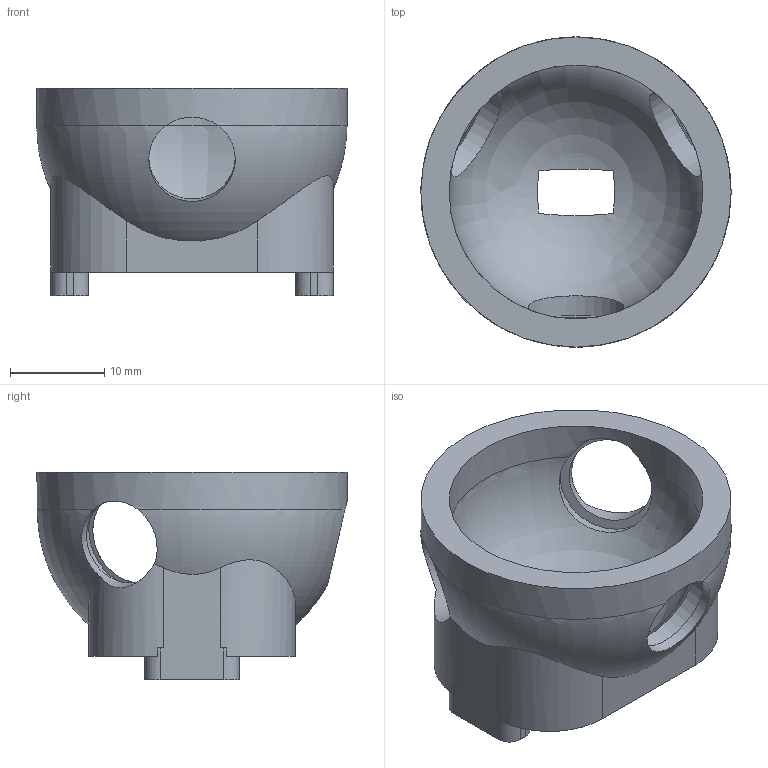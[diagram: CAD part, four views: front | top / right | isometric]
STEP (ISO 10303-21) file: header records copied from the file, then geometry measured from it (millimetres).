
FILE_DESCRIPTION(('Open CASCADE Model'),'2;1');
FILE_NAME('Open CASCADE Shape Model','2026-05-31T19:43:33',('Author'),( 'Open CASCADE'),'Open CASCADE STEP processor 7.6','Open CASCADE 7.6' ,'Unknown');
FILE_SCHEMA(('AP242_MANAGED_MODEL_BASED_3D_ENGINEERING_MIM_LF. {1 0 10303 442 1 1 4 }'));
Length unit declared in the file: millimetre
Products named in the file (1): Open CASCADE STEP translator 7.6 6
Bounding box: 33 x 33 x 22.1 mm (x, y, z)
Volume: 5940.2 mm3; surface area: 4632.6 mm2
Topology: 1 solids, 1 shells, 83 faces, 245 edges, 161 vertices
Faces by surface type: plane 46, cylinder 28, bspline 4, revolution 3, cone 2
Full cylindrical faces by diameter (mm): 2.05 x2, 9.2 x3, 11.2 x3, 27 x1, 33 x1
Entity records: 10839 total; most frequent: CARTESIAN_POINT 6207, DIRECTION 811, ORIENTED_EDGE 486, PCURVE 486, DEFINITIONAL_REPRESENTATION 486, LINE 426, VECTOR 426, EDGE_CURVE 243
